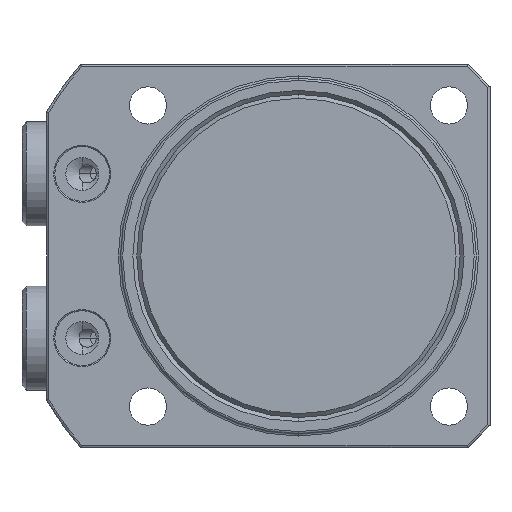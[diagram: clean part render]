
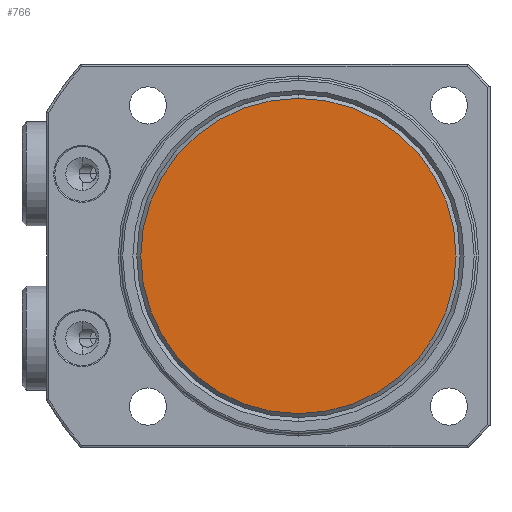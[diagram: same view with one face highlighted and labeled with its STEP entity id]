
A CAD part, front view. The second image highlights one B-rep face of the part: STEP entity #766.
In plain terms, the highlighted planar face has unit normal (0, -1, 0) as drawn and (1, 0, 0) by its records, which use the part's own axes.
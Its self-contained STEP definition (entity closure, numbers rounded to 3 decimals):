
#559=PLANE('',#2896);
#766=ADVANCED_FACE('',(#933),#559,.T.);
#933=FACE_OUTER_BOUND('',#1069,.T.);
#1069=EDGE_LOOP('',(#1775,#1776));
#1775=ORIENTED_EDGE('',*,*,#2385,.F.);
#1776=ORIENTED_EDGE('',*,*,#2501,.F.);
#2144=VERTEX_POINT('',#4125);
#2145=VERTEX_POINT('',#4126);
#2385=EDGE_CURVE('',#2144,#2145,#2634,.T.);
#2501=EDGE_CURVE('',#2145,#2144,#2677,.T.);
#2634=CIRCLE('',#2824,28.8);
#2677=CIRCLE('',#2895,28.8);
#2824=AXIS2_PLACEMENT_3D('',#4124,#3267,#3268);
#2895=AXIS2_PLACEMENT_3D('',#4594,#3463,#3464);
#2896=AXIS2_PLACEMENT_3D('',#4595,#3465,#3466);
#3267=DIRECTION('',(-1.,0.,0.));
#3268=DIRECTION('',(0.,0.,1.));
#3463=DIRECTION('',(-1.,0.,0.));
#3464=DIRECTION('',(0.,0.,1.));
#3465=DIRECTION('',(1.,0.,0.));
#3466=DIRECTION('',(0.,0.,1.));
#4124=CARTESIAN_POINT('',(63.,0.,0.));
#4125=CARTESIAN_POINT('',(63.,0.,28.8));
#4126=CARTESIAN_POINT('',(63.,0.,-28.8));
#4594=CARTESIAN_POINT('',(63.,0.,0.));
#4595=CARTESIAN_POINT('',(63.,0.,0.));
